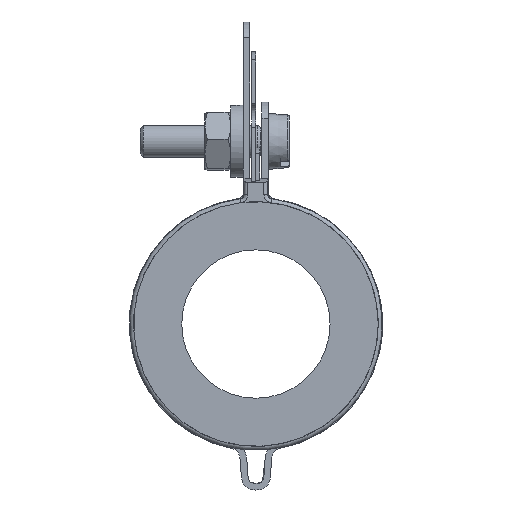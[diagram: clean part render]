
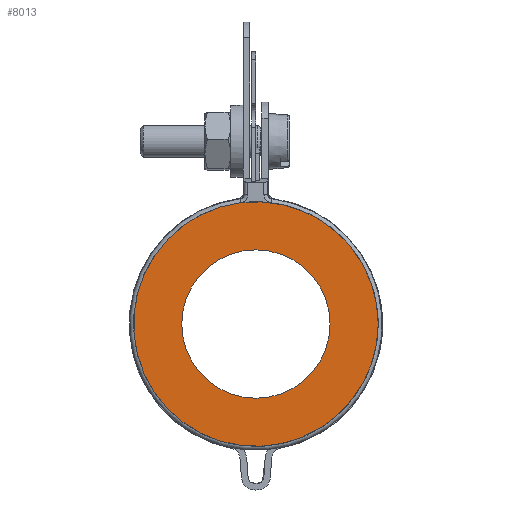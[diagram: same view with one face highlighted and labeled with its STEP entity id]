
A CAD part, front view. The second image highlights one B-rep face of the part: STEP entity #8013.
In plain terms, the highlighted planar face has unit normal (0, -1, 0).
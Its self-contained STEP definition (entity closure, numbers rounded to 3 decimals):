
#113=FACE_BOUND($,#1244,.T.);
#249=CIRCLE($,#8527,15.25);
#250=CIRCLE($,#8528,9.25);
#764=FACE_OUTER_BOUND($,#1243,.T.);
#1243=EDGE_LOOP($,(#5057));
#1244=EDGE_LOOP($,(#5058));
#3150=VERTEX_POINT($,#11951);
#3151=VERTEX_POINT($,#11953);
#3904=EDGE_CURVE($,#3150,#3150,#249,.T.);
#3905=EDGE_CURVE($,#3151,#3151,#250,.T.);
#5057=ORIENTED_EDGE($,*,*,#3904,.T.);
#5058=ORIENTED_EDGE($,*,*,#3905,.T.);
#7200=PLANE($,#8526);
#8013=ADVANCED_FACE($,(#764,#113),#7200,.T.);
#8526=AXIS2_PLACEMENT_3D($,#11950,#9494,#9495);
#8527=AXIS2_PLACEMENT_3D($,#11952,#9496,#9497);
#8528=AXIS2_PLACEMENT_3D($,#11954,#9498,#9499);
#9494=DIRECTION('center_axis',(0.,-1.,0.));
#9495=DIRECTION('ref_axis',(0.,0.,-1.));
#9496=DIRECTION('center_axis',(0.,-1.,0.));
#9497=DIRECTION('ref_axis',(-1.,0.,0.));
#9498=DIRECTION('center_axis',(0.,1.,0.));
#9499=DIRECTION('ref_axis',(1.,0.,0.));
#11950=CARTESIAN_POINT('Origin',(0.,0.,0.));
#11951=CARTESIAN_POINT('',(15.25,0.,0.));
#11952=CARTESIAN_POINT('Origin',(0.,0.,0.));
#11953=CARTESIAN_POINT('',(-9.25,0.,0.));
#11954=CARTESIAN_POINT('Origin',(0.,0.,0.));
